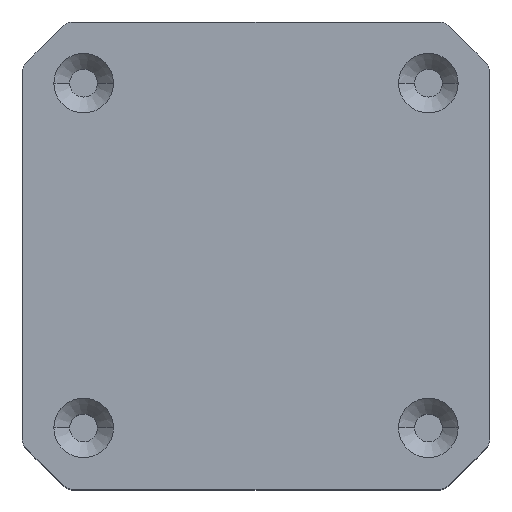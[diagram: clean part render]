
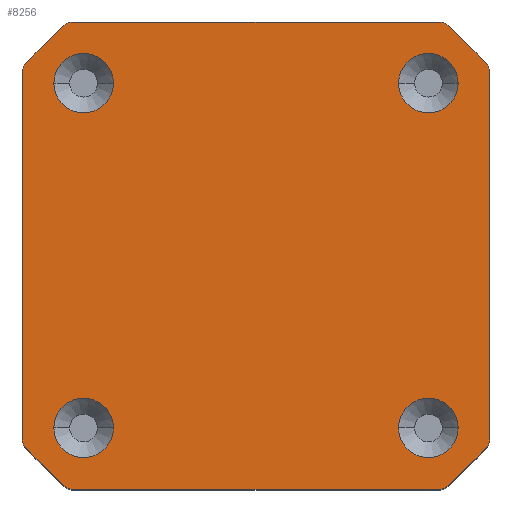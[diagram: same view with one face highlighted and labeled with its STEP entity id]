
A CAD part, top view. The second image highlights one B-rep face of the part: STEP entity #8256.
In plain terms, the highlighted planar face has unit normal (0, 0, 1).
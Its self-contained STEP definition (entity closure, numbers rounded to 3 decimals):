
#268=DIRECTION('',(0.707,0.707,0.));
#269=VECTOR('',#268,4.828);
#270=CARTESIAN_POINT('',(0.293,38.293,47.));
#271=LINE('',#270,#269);
#272=CARTESIAN_POINT('',(4.414,41.,47.));
#273=DIRECTION('',(0.,0.,-1.));
#274=DIRECTION('',(-0.707,0.707,0.));
#275=AXIS2_PLACEMENT_3D('',#272,#273,#274);
#277=DIRECTION('',(1.,0.,0.));
#278=VECTOR('',#277,33.172);
#279=CARTESIAN_POINT('',(4.414,42.,47.));
#280=LINE('',#279,#278);
#281=CARTESIAN_POINT('',(37.586,41.,47.));
#282=DIRECTION('',(0.,0.,-1.));
#283=DIRECTION('',(0.,1.,0.));
#284=AXIS2_PLACEMENT_3D('',#281,#282,#283);
#286=DIRECTION('',(0.707,-0.707,0.));
#287=VECTOR('',#286,4.828);
#288=CARTESIAN_POINT('',(38.293,41.707,47.));
#289=LINE('',#288,#287);
#290=CARTESIAN_POINT('',(41.,37.586,47.));
#291=DIRECTION('',(0.,0.,-1.));
#292=DIRECTION('',(0.707,0.707,0.));
#293=AXIS2_PLACEMENT_3D('',#290,#291,#292);
#295=DIRECTION('',(0.,-1.,0.));
#296=VECTOR('',#295,33.172);
#297=CARTESIAN_POINT('',(42.,37.586,47.));
#298=LINE('',#297,#296);
#299=CARTESIAN_POINT('',(41.,4.414,47.));
#300=DIRECTION('',(0.,0.,-1.));
#301=DIRECTION('',(1.,0.,0.));
#302=AXIS2_PLACEMENT_3D('',#299,#300,#301);
#304=DIRECTION('',(-0.707,-0.707,0.));
#305=VECTOR('',#304,4.828);
#306=CARTESIAN_POINT('',(41.707,3.707,47.));
#307=LINE('',#306,#305);
#308=CARTESIAN_POINT('',(37.586,1.,47.));
#309=DIRECTION('',(0.,0.,-1.));
#310=DIRECTION('',(0.707,-0.707,0.));
#311=AXIS2_PLACEMENT_3D('',#308,#309,#310);
#313=DIRECTION('',(-1.,0.,0.));
#314=VECTOR('',#313,33.172);
#315=CARTESIAN_POINT('',(37.586,0.,47.));
#316=LINE('',#315,#314);
#317=CARTESIAN_POINT('',(4.414,1.,47.));
#318=DIRECTION('',(0.,0.,-1.));
#319=DIRECTION('',(0.,-1.,0.));
#320=AXIS2_PLACEMENT_3D('',#317,#318,#319);
#322=DIRECTION('',(-0.707,0.707,0.));
#323=VECTOR('',#322,4.828);
#324=CARTESIAN_POINT('',(3.707,0.293,47.));
#325=LINE('',#324,#323);
#326=CARTESIAN_POINT('',(1.,4.414,47.));
#327=DIRECTION('',(0.,0.,-1.));
#328=DIRECTION('',(-0.707,-0.707,0.));
#329=AXIS2_PLACEMENT_3D('',#326,#327,#328);
#331=DIRECTION('',(0.,1.,0.));
#332=VECTOR('',#331,33.172);
#333=CARTESIAN_POINT('',(0.,4.414,47.));
#334=LINE('',#333,#332);
#335=CARTESIAN_POINT('',(1.,37.586,47.));
#336=DIRECTION('',(0.,0.,-1.));
#337=DIRECTION('',(-1.,0.,0.));
#338=AXIS2_PLACEMENT_3D('',#335,#336,#337);
#340=CARTESIAN_POINT('',(36.5,36.5,47.));
#341=DIRECTION('',(0.,0.,1.));
#342=DIRECTION('',(1.,0.,0.));
#343=AXIS2_PLACEMENT_3D('',#340,#341,#342);
#345=CARTESIAN_POINT('',(36.5,36.5,47.));
#346=DIRECTION('',(0.,0.,1.));
#347=DIRECTION('',(-1.,0.,0.));
#348=AXIS2_PLACEMENT_3D('',#345,#346,#347);
#350=CARTESIAN_POINT('',(5.5,5.5,47.));
#351=DIRECTION('',(0.,0.,1.));
#352=DIRECTION('',(1.,0.,0.));
#353=AXIS2_PLACEMENT_3D('',#350,#351,#352);
#355=CARTESIAN_POINT('',(5.5,5.5,47.));
#356=DIRECTION('',(0.,0.,1.));
#357=DIRECTION('',(-1.,0.,0.));
#358=AXIS2_PLACEMENT_3D('',#355,#356,#357);
#360=CARTESIAN_POINT('',(36.5,5.5,47.));
#361=DIRECTION('',(0.,0.,1.));
#362=DIRECTION('',(1.,0.,0.));
#363=AXIS2_PLACEMENT_3D('',#360,#361,#362);
#365=CARTESIAN_POINT('',(36.5,5.5,47.));
#366=DIRECTION('',(0.,0.,1.));
#367=DIRECTION('',(-1.,0.,0.));
#368=AXIS2_PLACEMENT_3D('',#365,#366,#367);
#370=CARTESIAN_POINT('',(5.5,36.5,47.));
#371=DIRECTION('',(0.,0.,1.));
#372=DIRECTION('',(1.,0.,0.));
#373=AXIS2_PLACEMENT_3D('',#370,#371,#372);
#375=CARTESIAN_POINT('',(5.5,36.5,47.));
#376=DIRECTION('',(0.,0.,1.));
#377=DIRECTION('',(-1.,0.,0.));
#378=AXIS2_PLACEMENT_3D('',#375,#376,#377);
#7011=CARTESIAN_POINT('',(37.586,42.,47.));
#7012=VERTEX_POINT('',#7011);
#7013=CARTESIAN_POINT('',(4.414,42.,47.));
#7014=VERTEX_POINT('',#7013);
#7039=CARTESIAN_POINT('',(0.,37.586,47.));
#7040=VERTEX_POINT('',#7039);
#7041=CARTESIAN_POINT('',(0.,4.414,47.));
#7042=VERTEX_POINT('',#7041);
#7073=CARTESIAN_POINT('',(3.707,41.707,47.));
#7074=VERTEX_POINT('',#7073);
#7075=CARTESIAN_POINT('',(0.293,38.293,47.));
#7076=VERTEX_POINT('',#7075);
#7077=CARTESIAN_POINT('',(38.293,41.707,47.));
#7078=VERTEX_POINT('',#7077);
#7079=CARTESIAN_POINT('',(41.707,38.293,47.));
#7080=VERTEX_POINT('',#7079);
#7081=CARTESIAN_POINT('',(42.,37.586,47.));
#7082=VERTEX_POINT('',#7081);
#7083=CARTESIAN_POINT('',(42.,4.414,47.));
#7084=VERTEX_POINT('',#7083);
#7085=CARTESIAN_POINT('',(41.707,3.707,47.));
#7086=VERTEX_POINT('',#7085);
#7087=CARTESIAN_POINT('',(38.293,0.293,47.));
#7088=VERTEX_POINT('',#7087);
#7089=CARTESIAN_POINT('',(37.586,0.,47.));
#7090=VERTEX_POINT('',#7089);
#7091=CARTESIAN_POINT('',(4.414,0.,47.));
#7092=VERTEX_POINT('',#7091);
#7093=CARTESIAN_POINT('',(3.707,0.293,47.));
#7094=VERTEX_POINT('',#7093);
#7095=CARTESIAN_POINT('',(0.293,3.707,47.));
#7096=VERTEX_POINT('',#7095);
#7097=CARTESIAN_POINT('',(39.174,36.5,47.));
#7098=CARTESIAN_POINT('',(33.826,36.5,47.));
#7099=VERTEX_POINT('',#7097);
#7100=VERTEX_POINT('',#7098);
#7101=CARTESIAN_POINT('',(8.174,5.5,47.));
#7102=CARTESIAN_POINT('',(2.826,5.5,47.));
#7103=VERTEX_POINT('',#7101);
#7104=VERTEX_POINT('',#7102);
#7105=CARTESIAN_POINT('',(39.174,5.5,47.));
#7106=CARTESIAN_POINT('',(33.826,5.5,47.));
#7107=VERTEX_POINT('',#7105);
#7108=VERTEX_POINT('',#7106);
#7109=CARTESIAN_POINT('',(8.174,36.5,47.));
#7110=CARTESIAN_POINT('',(2.826,36.5,47.));
#7111=VERTEX_POINT('',#7109);
#7112=VERTEX_POINT('',#7110);
#8196=CARTESIAN_POINT('',(0.,0.,47.));
#8197=DIRECTION('',(0.,0.,-1.));
#8198=DIRECTION('',(-1.,0.,0.));
#8199=AXIS2_PLACEMENT_3D('',#8196,#8197,#8198);
#8200=PLANE('',#8199);
#8202=ORIENTED_EDGE('',*,*,#8201,.T.);
#8203=ORIENTED_EDGE('',*,*,#8182,.T.);
#8204=ORIENTED_EDGE('',*,*,#7969,.T.);
#8206=ORIENTED_EDGE('',*,*,#8205,.T.);
#8208=ORIENTED_EDGE('',*,*,#8207,.T.);
#8210=ORIENTED_EDGE('',*,*,#8209,.T.);
#8212=ORIENTED_EDGE('',*,*,#8211,.T.);
#8214=ORIENTED_EDGE('',*,*,#8213,.T.);
#8216=ORIENTED_EDGE('',*,*,#8215,.T.);
#8218=ORIENTED_EDGE('',*,*,#8217,.T.);
#8220=ORIENTED_EDGE('',*,*,#8219,.T.);
#8222=ORIENTED_EDGE('',*,*,#8221,.T.);
#8224=ORIENTED_EDGE('',*,*,#8223,.T.);
#8226=ORIENTED_EDGE('',*,*,#8225,.T.);
#8227=ORIENTED_EDGE('',*,*,#8050,.T.);
#8229=ORIENTED_EDGE('',*,*,#8228,.T.);
#8230=EDGE_LOOP('',(#8202,#8203,#8204,#8206,#8208,#8210,#8212,#8214,#8216,#8218,
#8220,#8222,#8224,#8226,#8227,#8229));
#8231=FACE_OUTER_BOUND('',#8230,.F.);
#8233=ORIENTED_EDGE('',*,*,#8232,.T.);
#8235=ORIENTED_EDGE('',*,*,#8234,.T.);
#8236=EDGE_LOOP('',(#8233,#8235));
#8237=FACE_BOUND('',#8236,.F.);
#8239=ORIENTED_EDGE('',*,*,#8238,.T.);
#8241=ORIENTED_EDGE('',*,*,#8240,.T.);
#8242=EDGE_LOOP('',(#8239,#8241));
#8243=FACE_BOUND('',#8242,.F.);
#8245=ORIENTED_EDGE('',*,*,#8244,.T.);
#8247=ORIENTED_EDGE('',*,*,#8246,.T.);
#8248=EDGE_LOOP('',(#8245,#8247));
#8249=FACE_BOUND('',#8248,.F.);
#8251=ORIENTED_EDGE('',*,*,#8250,.T.);
#8253=ORIENTED_EDGE('',*,*,#8252,.T.);
#8254=EDGE_LOOP('',(#8251,#8253));
#8255=FACE_BOUND('',#8254,.F.);
#276=CIRCLE('',#275,1.);
#285=CIRCLE('',#284,1.);
#294=CIRCLE('',#293,1.);
#303=CIRCLE('',#302,1.);
#312=CIRCLE('',#311,1.);
#321=CIRCLE('',#320,1.);
#330=CIRCLE('',#329,1.);
#339=CIRCLE('',#338,1.);
#344=CIRCLE('',#343,2.674);
#349=CIRCLE('',#348,2.674);
#354=CIRCLE('',#353,2.674);
#359=CIRCLE('',#358,2.674);
#364=CIRCLE('',#363,2.674);
#369=CIRCLE('',#368,2.674);
#374=CIRCLE('',#373,2.674);
#379=CIRCLE('',#378,2.674);
#7969=EDGE_CURVE('',#7014,#7012,#280,.T.);
#8050=EDGE_CURVE('',#7042,#7040,#334,.T.);
#8182=EDGE_CURVE('',#7074,#7014,#276,.T.);
#8201=EDGE_CURVE('',#7076,#7074,#271,.T.);
#8205=EDGE_CURVE('',#7012,#7078,#285,.T.);
#8207=EDGE_CURVE('',#7078,#7080,#289,.T.);
#8209=EDGE_CURVE('',#7080,#7082,#294,.T.);
#8211=EDGE_CURVE('',#7082,#7084,#298,.T.);
#8213=EDGE_CURVE('',#7084,#7086,#303,.T.);
#8215=EDGE_CURVE('',#7086,#7088,#307,.T.);
#8217=EDGE_CURVE('',#7088,#7090,#312,.T.);
#8219=EDGE_CURVE('',#7090,#7092,#316,.T.);
#8221=EDGE_CURVE('',#7092,#7094,#321,.T.);
#8223=EDGE_CURVE('',#7094,#7096,#325,.T.);
#8225=EDGE_CURVE('',#7096,#7042,#330,.T.);
#8228=EDGE_CURVE('',#7040,#7076,#339,.T.);
#8232=EDGE_CURVE('',#7099,#7100,#344,.T.);
#8234=EDGE_CURVE('',#7100,#7099,#349,.T.);
#8238=EDGE_CURVE('',#7103,#7104,#354,.T.);
#8240=EDGE_CURVE('',#7104,#7103,#359,.T.);
#8244=EDGE_CURVE('',#7107,#7108,#364,.T.);
#8246=EDGE_CURVE('',#7108,#7107,#369,.T.);
#8250=EDGE_CURVE('',#7111,#7112,#374,.T.);
#8252=EDGE_CURVE('',#7112,#7111,#379,.T.);
#8256=ADVANCED_FACE('',(#8231,#8237,#8243,#8249,#8255),#8200,.F.);
